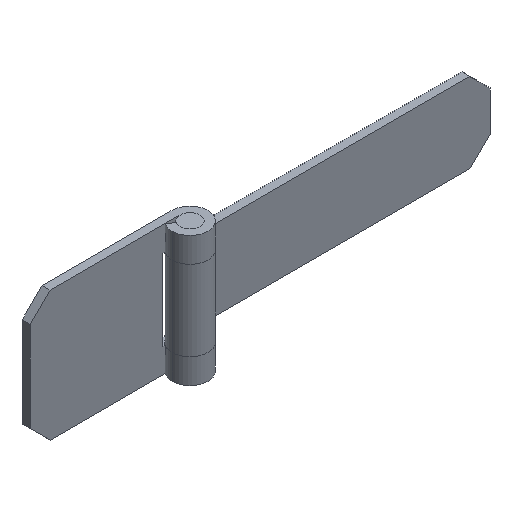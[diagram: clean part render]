
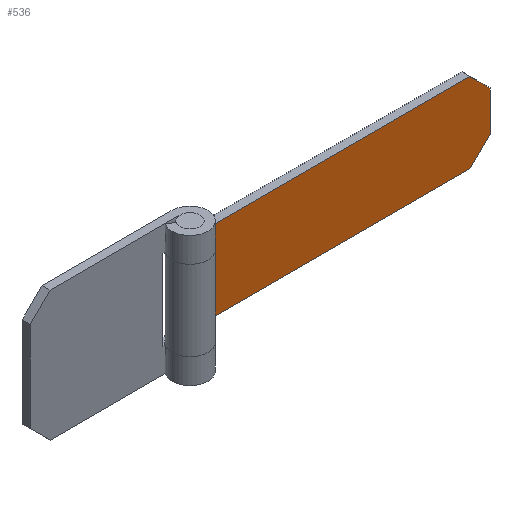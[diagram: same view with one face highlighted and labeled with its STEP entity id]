
A CAD part, isometric view. The second image highlights one B-rep face of the part: STEP entity #536.
In plain terms, the highlighted planar face has unit normal (0, -1, 0).
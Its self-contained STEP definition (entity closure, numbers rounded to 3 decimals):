
#283=CARTESIAN_POINT('',(0.0,5.0,12.5));
#284=VERTEX_POINT('',#283);
#292=CARTESIAN_POINT('',(0.0,5.0,52.5));
#293=VERTEX_POINT('',#292);
#294=CARTESIAN_POINT('',(0.0,5.0,12.5));
#295=DIRECTION('',(0.0,0.0,1.0));
#296=VECTOR('',#295,40.0);
#297=LINE('',#294,#296);
#298=EDGE_CURVE('',#284,#293,#297,.T.);
#392=CARTESIAN_POINT('',(155.0,5.,22.5));
#393=VERTEX_POINT('',#392);
#394=CARTESIAN_POINT('',(145.0,5.,12.5));
#395=VERTEX_POINT('',#394);
#396=CARTESIAN_POINT('',(155.0,5.,22.5));
#397=DIRECTION('',(-0.707,0.,-0.707));
#398=VECTOR('',#397,14.142);
#399=LINE('',#396,#398);
#400=EDGE_CURVE('',#393,#395,#399,.T.);
#440=CARTESIAN_POINT('',(155.0,5.,42.5));
#441=VERTEX_POINT('',#440);
#448=CARTESIAN_POINT('',(155.0,5.,22.5));
#449=DIRECTION('',(0.0,0.0,1.0));
#450=VECTOR('',#449,20.0);
#451=LINE('',#448,#450);
#452=EDGE_CURVE('',#393,#441,#451,.T.);
#471=CARTESIAN_POINT('',(145.0,5.,52.5));
#472=VERTEX_POINT('',#471);
#479=CARTESIAN_POINT('',(145.0,5.,52.5));
#480=DIRECTION('',(0.707,0.0,-0.707));
#481=VECTOR('',#480,14.142);
#482=LINE('',#479,#481);
#483=EDGE_CURVE('',#472,#441,#482,.T.);
#513=CARTESIAN_POINT('',(76.121,5.,42.27));
#514=DIRECTION('',(0.0,1.0,0.0));
#515=DIRECTION('',(-1.0,0.0,0.0));
#516=AXIS2_PLACEMENT_3D('',#513,#514,#515);
#517=PLANE('',#516);
#518=ORIENTED_EDGE('',*,*,#298,.F.);
#519=CARTESIAN_POINT('',(145.0,5.,12.5));
#520=DIRECTION('',(-1.0,0.0,0.0));
#521=VECTOR('',#520,145.0);
#522=LINE('',#519,#521);
#523=EDGE_CURVE('',#395,#284,#522,.T.);
#524=ORIENTED_EDGE('',*,*,#523,.F.);
#525=ORIENTED_EDGE('',*,*,#400,.F.);
#526=ORIENTED_EDGE('',*,*,#452,.T.);
#527=ORIENTED_EDGE('',*,*,#483,.F.);
#528=CARTESIAN_POINT('',(0.0,5.0,52.5));
#529=DIRECTION('',(1.0,0.0,0.0));
#530=VECTOR('',#529,145.0);
#531=LINE('',#528,#530);
#532=EDGE_CURVE('',#293,#472,#531,.T.);
#533=ORIENTED_EDGE('',*,*,#532,.F.);
#534=EDGE_LOOP('',(#518,#524,#525,#526,#527,#533));
#535=FACE_OUTER_BOUND('',#534,.T.);
#536=ADVANCED_FACE('',(#535),#517,.F.);
